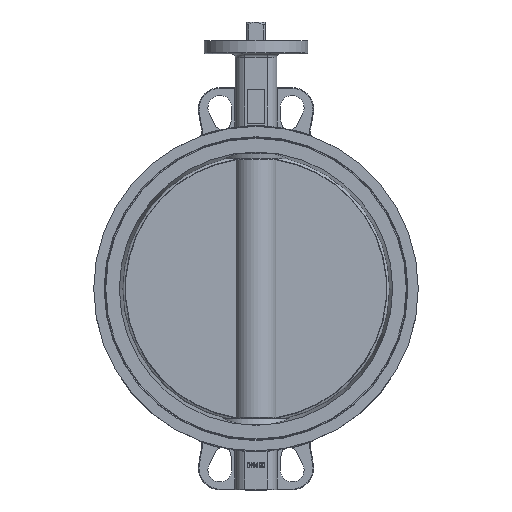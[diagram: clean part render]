
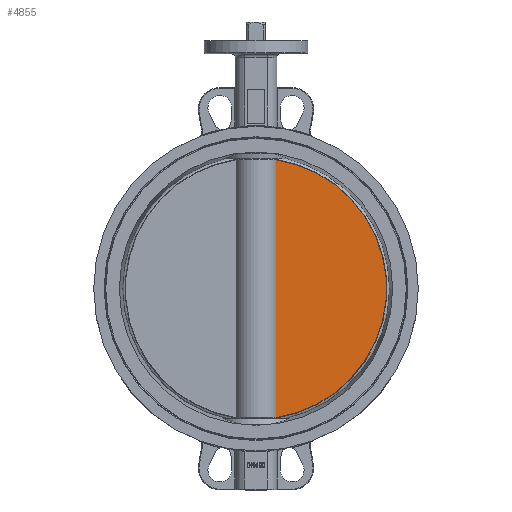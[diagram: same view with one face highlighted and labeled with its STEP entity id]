
A CAD part, top view. The second image highlights one B-rep face of the part: STEP entity #4855.
In plain terms, the highlighted planar face has unit normal (0, 0, 1).
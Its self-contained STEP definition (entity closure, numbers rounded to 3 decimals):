
#4797 = EDGE_LOOP ( 'NONE', ( #4803, #4858, #4854, #4836 ) ) ;
#4803 = ORIENTED_EDGE ( 'NONE', *, *, #4805, .T. ) ;
#4805 = EDGE_CURVE ( 'NONE', #4806, #4819, #10210, .T. ) ;
#4806 = VERTEX_POINT ( 'NONE', #10250 ) ;
#4819 = VERTEX_POINT ( 'NONE', #10233 ) ;
#4836 = ORIENTED_EDGE ( 'NONE', *, *, #4860, .T. ) ;
#4852 = EDGE_CURVE ( 'NONE', #4819, #4857, #10364, .T. ) ;
#4854 = ORIENTED_EDGE ( 'NONE', *, *, #4859, .T. ) ;
#4855 = ADVANCED_FACE ( 'NONE', ( #10327 ), #10322, .T. ) ;
#4857 = VERTEX_POINT ( 'NONE', #10321 ) ;
#4858 = ORIENTED_EDGE ( 'NONE', *, *, #4852, .T. ) ;
#4859 = EDGE_CURVE ( 'NONE', #4857, #4863, #10351, .T. ) ;
#4860 = EDGE_CURVE ( 'NONE', #4863, #4806, #10352, .T. ) ;
#4863 = VERTEX_POINT ( 'NONE', #10130 ) ;
#9461 = CARTESIAN_POINT ( 'NONE',  ( 28.65, -187.134, 8. ) ) ;
#9462 = CARTESIAN_POINT ( 'NONE',  ( 28.518, -187.261, 8. ) ) ;
#10130 = CARTESIAN_POINT ( 'NONE',  ( 28.914, -186.88, 8. ) ) ;
#10210 = CIRCLE ( 'NONE', #10249, 189.42 ) ;
#10233 = CARTESIAN_POINT ( 'NONE',  ( 28.518, 187.261, 8. ) ) ;
#10246 = DIRECTION ( 'NONE',  ( 0., -1., 0. ) ) ;
#10247 = DIRECTION ( 'NONE',  ( 0., 0., 1. ) ) ;
#10248 = CARTESIAN_POINT ( 'NONE',  ( 0., 0., 8. ) ) ;
#10249 = AXIS2_PLACEMENT_3D ( 'NONE', #10248, #10247, #10246 ) ;
#10250 = CARTESIAN_POINT ( 'NONE',  ( 28.518, -187.261, 8. ) ) ;
#10321 = CARTESIAN_POINT ( 'NONE',  ( 28.914, 186.88, 8. ) ) ;
#10322 = PLANE ( 'NONE',  #10363 ) ;
#10327 = FACE_OUTER_BOUND ( 'NONE', #4797, .T. ) ;
#10341 = CARTESIAN_POINT ( 'NONE',  ( 28.782, -187.007, 8. ) ) ;
#10342 = CARTESIAN_POINT ( 'NONE',  ( 28.914, -186.88, 8. ) ) ;
#10348 = DIRECTION ( 'NONE',  ( 0., -1., 0. ) ) ;
#10349 = VECTOR ( 'NONE', #10348, 1000. ) ;
#10350 = CARTESIAN_POINT ( 'NONE',  ( 28.914, 225., 8. ) ) ;
#10351 = LINE ( 'NONE', #10350, #10349 ) ;
#10352 = B_SPLINE_CURVE_WITH_KNOTS ( 'NONE', 3,
 ( #10342, #10341, #9461, #9462 ),
 .UNSPECIFIED., .F., .F.,
 ( 4, 4 ),
 ( 0., 0.001 ),
 .UNSPECIFIED. ) ;
#10353 = DIRECTION ( 'NONE',  ( 0., -1., 0. ) ) ;
#10354 = DIRECTION ( 'NONE',  ( 0., 0., 1. ) ) ;
#10355 = CARTESIAN_POINT ( 'NONE',  ( 0., 0., 8. ) ) ;
#10357 = CARTESIAN_POINT ( 'NONE',  ( 28.914, 186.88, 8. ) ) ;
#10358 = CARTESIAN_POINT ( 'NONE',  ( 28.782, 187.007, 8. ) ) ;
#10359 = CARTESIAN_POINT ( 'NONE',  ( 28.65, 187.134, 8. ) ) ;
#10360 = CARTESIAN_POINT ( 'NONE',  ( 28.518, 187.261, 8. ) ) ;
#10363 = AXIS2_PLACEMENT_3D ( 'NONE', #10355, #10354, #10353 ) ;
#10364 = B_SPLINE_CURVE_WITH_KNOTS ( 'NONE', 3,
 ( #10360, #10359, #10358, #10357 ),
 .UNSPECIFIED., .F., .F.,
 ( 4, 4 ),
 ( 0., 0.001 ),
 .UNSPECIFIED. ) ;
